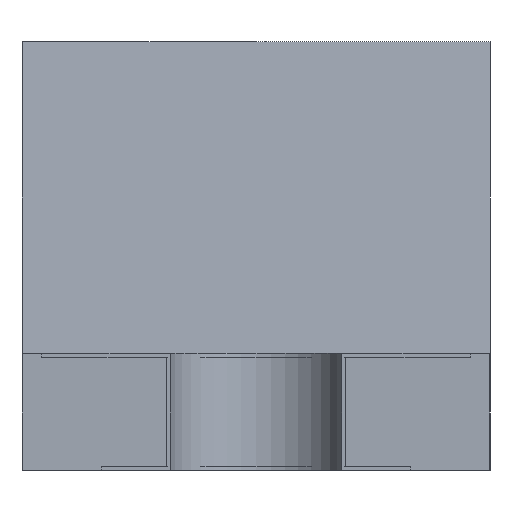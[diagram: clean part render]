
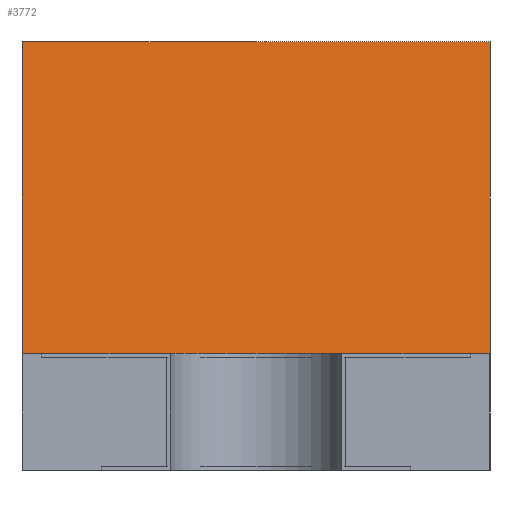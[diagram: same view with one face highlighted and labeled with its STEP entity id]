
A CAD part, left-side view. The second image highlights one B-rep face of the part: STEP entity #3772.
In plain terms, the highlighted planar face has unit normal (-0.996, 0, 0.087).
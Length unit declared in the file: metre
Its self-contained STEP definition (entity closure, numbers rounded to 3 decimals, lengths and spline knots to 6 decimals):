
#1209=ORIENTED_EDGE('',*,*,#1762,.F.);
#1210=ORIENTED_EDGE('',*,*,#1763,.F.);
#1211=ORIENTED_EDGE('',*,*,#1764,.T.);
#1212=ORIENTED_EDGE('',*,*,#1758,.T.);
#1758=EDGE_CURVE('',#2120,#2121,#2551,.T.);
#1762=EDGE_CURVE('',#2124,#2121,#2555,.T.);
#1763=EDGE_CURVE('',#2125,#2124,#2556,.T.);
#1764=EDGE_CURVE('',#2125,#2120,#2557,.T.);
#2120=VERTEX_POINT('',#6288);
#2121=VERTEX_POINT('',#6289);
#2124=VERTEX_POINT('',#6297);
#2125=VERTEX_POINT('',#6299);
#2551=LINE('',#6287,#2990);
#2555=LINE('',#6296,#2994);
#2556=LINE('',#6298,#2995);
#2557=LINE('',#6300,#2996);
#2990=VECTOR('',#4882,1.);
#2994=VECTOR('',#4888,1.);
#2995=VECTOR('',#4889,1.);
#2996=VECTOR('',#4890,1.);
#3212=EDGE_LOOP('',(#1209,#1210,#1211,#1212));
#3421=FACE_BOUND('',#3212,.T.);
#3574=PLANE('',#4062);
#3772=ADVANCED_FACE('',(#3421),#3574,.F.);
#4062=AXIS2_PLACEMENT_3D('',#6295,#4886,#4887);
#4882=DIRECTION('',(-0.087,0.,-0.996));
#4886=DIRECTION('',(0.996,0.,-0.087));
#4887=DIRECTION('',(-0.087,0.,-0.996));
#4888=DIRECTION('',(0.,1.,0.));
#4889=DIRECTION('',(-0.087,0.,-0.996));
#4890=DIRECTION('',(0.,1.,0.));
#6287=CARTESIAN_POINT('',(-0.000565,0.0006,0.00069));
#6288=CARTESIAN_POINT('',(-0.00053,0.0006,0.00109));
#6289=CARTESIAN_POINT('',(-0.0006,0.0006,0.00029));
#6295=CARTESIAN_POINT('',(-0.000565,-0.000602,0.00069));
#6296=CARTESIAN_POINT('',(-0.0006,-0.000602,0.00029));
#6297=CARTESIAN_POINT('',(-0.0006,-0.0006,0.00029));
#6298=CARTESIAN_POINT('',(-0.000565,-0.0006,0.00069));
#6299=CARTESIAN_POINT('',(-0.00053,-0.0006,0.00109));
#6300=CARTESIAN_POINT('',(-0.00053,-0.000602,0.00109));
